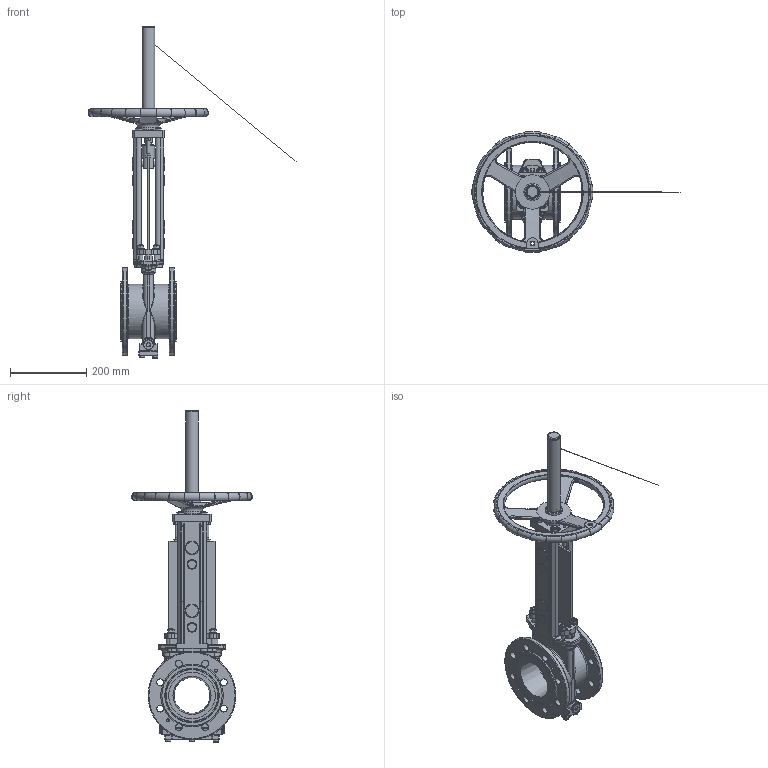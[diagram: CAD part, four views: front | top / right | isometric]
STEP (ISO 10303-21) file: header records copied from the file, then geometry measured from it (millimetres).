
FILE_DESCRIPTION(('STEP AP203'),'1');
FILE_NAME('F:/3D-block färdiga för export/SLV-SLF/DN 100/SLF-DN100-PN10-HW-Rising_stem.stp','2014-07-02T08:48:08',(' '),(' '),'Spatial InterOp 3D',' ',' ');
FILE_SCHEMA(('CONFIG_CONTROL_DESIGN'));
Length unit declared in the file: millimetre
Products named in the file (1): 1
Bounding box: 544.85 x 316.7 x 869.65 mm (x, y, z)
Volume: 4035691.7 mm3; surface area: 1043898.5 mm2
Topology: 1 solids, 30 shells, 1580 faces, 3930 edges, 2451 vertices
Faces by surface type: plane 648, cylinder 426, cone 267, torus 137, bspline 96, sphere 6
Full cylindrical faces by diameter (mm): 3.7 x8, 4 x4, 6.75 x8, 8 x10, 8.4 x6, 8.5 x5, 9 x8, 10 x16, 10.5 x4, 10.985 x4, 12 x9, 13 x1, 15 x4, 15.3 x1, 15.5 x1, 15.6 x1, 16 x6, 18 x16, 19 x1, 19.74 x4, 20 x6, 24 x1, 26 x11, 27.3 x1, 28.5 x1, 31.5 x1, 31.9 x1, 32 x4, 33.7 x1, 36 x4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
Entity records: 65099 total; most frequent: CARTESIAN_POINT 30061, DIRECTION 7310, ORIENTED_EDGE 6908, EDGE_CURVE 3454, AXIS2_PLACEMENT_3D 3026, VERTEX_POINT 2294, EDGE_LOOP 2082, FACE_OUTER_BOUND 1814
